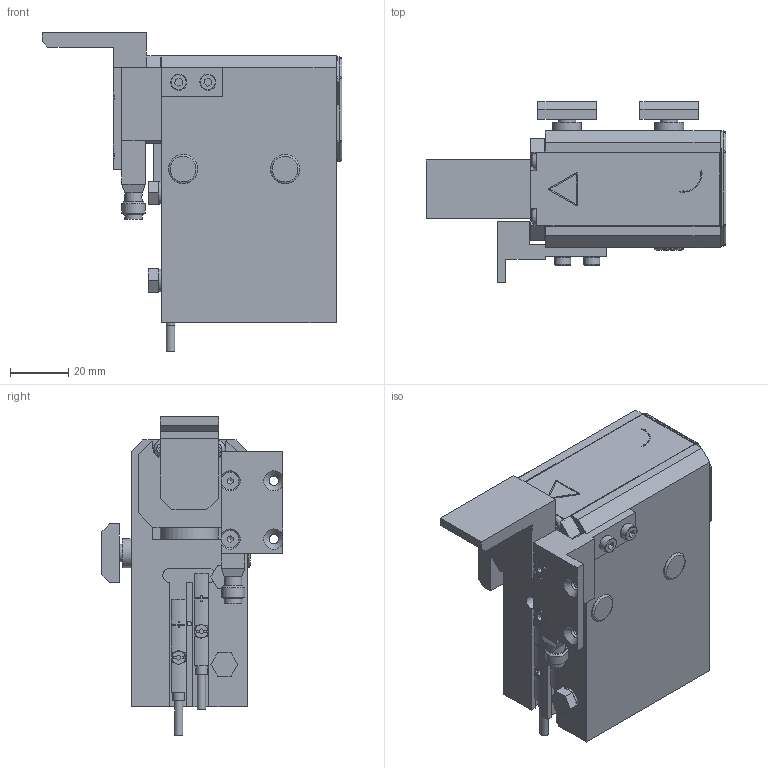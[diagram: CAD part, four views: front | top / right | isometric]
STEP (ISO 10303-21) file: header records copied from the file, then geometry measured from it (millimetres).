
FILE_DESCRIPTION(/* description */ (''),/* implementation_level */ '2;1');
FILE_NAME(/* name */ 'C:\Marketing\01_Versamove-SPU_STEP-Dateien-Homepage\Versamove plus\ASM-60-Spezial_Reed.stp',/* time_stamp */ '2016-12-22T15:22:36+01:00',/* author */ ('herbert.engels'),/* organization */ (''),/* preprocessor_version */ 'ST-DEVELOPER v15.6',/* originating_system */ 'Autodesk Inventor 2015',/* authorisation */ '');
FILE_SCHEMA (('CONFIG_CONTROL_DESIGN'));
Length unit declared in the file: millimetre
Products named in the file (1): ASM-60-Spezial_Reed
Bounding box: 102.9 x 62.2 x 109.32 mm (x, y, z)
Volume: 221050.3 mm3; surface area: 59187.3 mm2
Topology: 1 solids, 1 shells, 532 faces, 1404 edges, 903 vertices
Faces by surface type: plane 360, cylinder 121, cone 36, sphere 8, torus 5, bspline 2
Full cylindrical faces by diameter (mm): 1.5 x2, 2 x2, 2.459 x2, 2.5 x4, 2.9 x2, 3 x2, 3.2 x4, 3.3 x3, 3.4 x2, 4 x4, 4.2 x4, 4.5 x2, 5 x1, 5.5 x2, 6 x6, 7.8 x2, 8 x1, 10 x5, 15 x1, 19.96 x1, 28 x1, 28.9 x2, 30 x1, 33.6 x4, 34.05 x1, 35.92 x1, 36.05 x1
Entity records: 16363 total; most frequent: CARTESIAN_POINT 3116, DIRECTION 2592, ORIENTED_EDGE 2500, EDGE_CURVE 1250, LINE 876, VECTOR 876, VERTEX_POINT 858, AXIS2_PLACEMENT_3D 858
